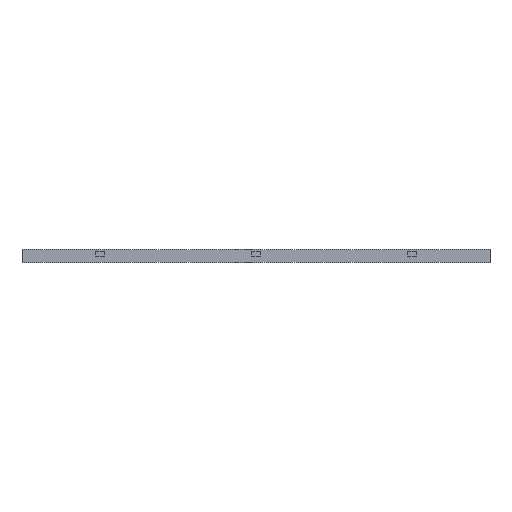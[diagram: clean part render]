
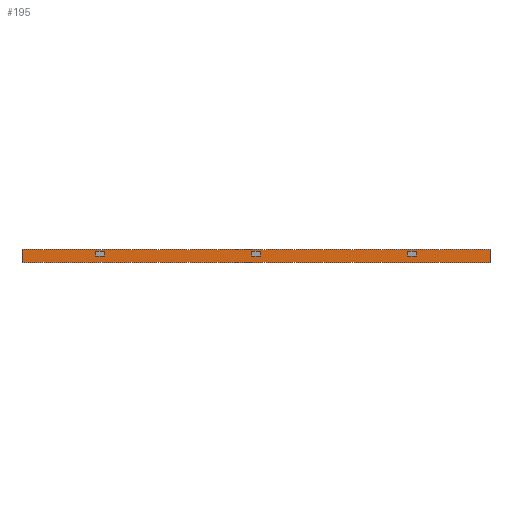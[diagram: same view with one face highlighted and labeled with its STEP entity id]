
A CAD part, left-side view. The second image highlights one B-rep face of the part: STEP entity #195.
In plain terms, the highlighted planar face has unit normal (-1, 0, 0).
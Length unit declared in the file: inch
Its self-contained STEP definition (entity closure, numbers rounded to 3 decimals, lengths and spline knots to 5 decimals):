
#17=FACE_BOUND('',#643,.T.);
#18=FACE_BOUND('',#644,.T.);
#19=FACE_BOUND('',#645,.T.);
#195=ADVANCED_FACE('',(#417,#17,#18,#19),#3789,.T.);
#417=FACE_OUTER_BOUND('',#642,.T.);
#642=EDGE_LOOP('',(#1272,#1273,#1274,#1275));
#643=EDGE_LOOP('',(#1276,#1277,#1278,#1279));
#644=EDGE_LOOP('',(#1280,#1281,#1282,#1283));
#645=EDGE_LOOP('',(#1284,#1285,#1286,#1287));
#1272=ORIENTED_EDGE('',*,*,#2368,.T.);
#1273=ORIENTED_EDGE('',*,*,#2369,.T.);
#1274=ORIENTED_EDGE('',*,*,#2370,.T.);
#1275=ORIENTED_EDGE('',*,*,#2371,.T.);
#1276=ORIENTED_EDGE('',*,*,#2162,.F.);
#1277=ORIENTED_EDGE('',*,*,#2192,.F.);
#1278=ORIENTED_EDGE('',*,*,#2129,.F.);
#1279=ORIENTED_EDGE('',*,*,#2092,.F.);
#1280=ORIENTED_EDGE('',*,*,#2318,.F.);
#1281=ORIENTED_EDGE('',*,*,#2348,.F.);
#1282=ORIENTED_EDGE('',*,*,#2285,.F.);
#1283=ORIENTED_EDGE('',*,*,#2248,.F.);
#1284=ORIENTED_EDGE('',*,*,#2375,.T.);
#1285=ORIENTED_EDGE('',*,*,#2372,.T.);
#1286=ORIENTED_EDGE('',*,*,#2373,.T.);
#1287=ORIENTED_EDGE('',*,*,#2374,.T.);
#2092=EDGE_CURVE('',#3316,#3317,#2704,.T.);
#2129=EDGE_CURVE('',#3317,#3342,#2741,.T.);
#2162=EDGE_CURVE('',#3364,#3316,#2774,.T.);
#2192=EDGE_CURVE('',#3342,#3364,#2804,.T.);
#2248=EDGE_CURVE('',#3420,#3421,#2860,.T.);
#2285=EDGE_CURVE('',#3421,#3446,#2897,.T.);
#2318=EDGE_CURVE('',#3468,#3420,#2930,.T.);
#2348=EDGE_CURVE('',#3446,#3468,#2960,.T.);
#2368=EDGE_CURVE('',#3488,#3489,#2980,.T.);
#2369=EDGE_CURVE('',#3489,#3490,#2981,.T.);
#2370=EDGE_CURVE('',#3490,#3491,#2982,.T.);
#2371=EDGE_CURVE('',#3491,#3488,#2983,.T.);
#2372=EDGE_CURVE('',#3492,#3493,#2984,.T.);
#2373=EDGE_CURVE('',#3493,#3494,#2985,.T.);
#2374=EDGE_CURVE('',#3494,#3495,#2986,.T.);
#2375=EDGE_CURVE('',#3495,#3492,#2987,.T.);
#2704=B_SPLINE_CURVE_WITH_KNOTS('',1,(#5161,#5162),.UNSPECIFIED.,.F.,.F.,
(2,2),(0.,1.25),.UNSPECIFIED.);
#2741=B_SPLINE_CURVE_WITH_KNOTS('',1,(#5235,#5236),.UNSPECIFIED.,.F.,.F.,
(2,2),(0.,0.75),.UNSPECIFIED.);
#2774=B_SPLINE_CURVE_WITH_KNOTS('',1,(#5301,#5302),.UNSPECIFIED.,.F.,.F.,
(2,2),(0.,0.75),.UNSPECIFIED.);
#2804=B_SPLINE_CURVE_WITH_KNOTS('',1,(#5361,#5362),.UNSPECIFIED.,.F.,.F.,
(2,2),(0.,1.25),.UNSPECIFIED.);
#2860=B_SPLINE_CURVE_WITH_KNOTS('',1,(#5473,#5474),.UNSPECIFIED.,.F.,.F.,
(2,2),(0.,1.25),.UNSPECIFIED.);
#2897=B_SPLINE_CURVE_WITH_KNOTS('',1,(#5547,#5548),.UNSPECIFIED.,.F.,.F.,
(2,2),(0.,0.75),.UNSPECIFIED.);
#2930=B_SPLINE_CURVE_WITH_KNOTS('',1,(#5613,#5614),.UNSPECIFIED.,.F.,.F.,
(2,2),(0.,0.75),.UNSPECIFIED.);
#2960=B_SPLINE_CURVE_WITH_KNOTS('',1,(#5673,#5674),.UNSPECIFIED.,.F.,.F.,
(2,2),(0.,1.25),.UNSPECIFIED.);
#2980=B_SPLINE_CURVE_WITH_KNOTS('',1,(#5713,#5714),.UNSPECIFIED.,.F.,.F.,
(2,2),(0.,72.),.UNSPECIFIED.);
#2981=B_SPLINE_CURVE_WITH_KNOTS('',1,(#5715,#5716),.UNSPECIFIED.,.F.,.F.,
(2,2),(0.,2.),.UNSPECIFIED.);
#2982=B_SPLINE_CURVE_WITH_KNOTS('',1,(#5717,#5718),.UNSPECIFIED.,.F.,.F.,
(2,2),(0.,72.),.UNSPECIFIED.);
#2983=B_SPLINE_CURVE_WITH_KNOTS('',1,(#5719,#5720),.UNSPECIFIED.,.F.,.F.,
(2,2),(0.,2.),.UNSPECIFIED.);
#2984=B_SPLINE_CURVE_WITH_KNOTS('',1,(#5721,#5722),.UNSPECIFIED.,.F.,.F.,
(2,2),(0.,1.25),.UNSPECIFIED.);
#2985=B_SPLINE_CURVE_WITH_KNOTS('',1,(#5723,#5724),.UNSPECIFIED.,.F.,.F.,
(2,2),(0.,0.75),.UNSPECIFIED.);
#2986=B_SPLINE_CURVE_WITH_KNOTS('',1,(#5725,#5726),.UNSPECIFIED.,.F.,.F.,
(2,2),(0.,1.25),.UNSPECIFIED.);
#2987=B_SPLINE_CURVE_WITH_KNOTS('',1,(#5727,#5728),.UNSPECIFIED.,.F.,.F.,
(2,2),(0.,0.75),.UNSPECIFIED.);
#3316=VERTEX_POINT('',#4709);
#3317=VERTEX_POINT('',#4710);
#3342=VERTEX_POINT('',#4735);
#3364=VERTEX_POINT('',#4757);
#3420=VERTEX_POINT('',#4813);
#3421=VERTEX_POINT('',#4814);
#3446=VERTEX_POINT('',#4839);
#3468=VERTEX_POINT('',#4861);
#3488=VERTEX_POINT('',#4881);
#3489=VERTEX_POINT('',#4882);
#3490=VERTEX_POINT('',#4883);
#3491=VERTEX_POINT('',#4884);
#3492=VERTEX_POINT('',#4885);
#3493=VERTEX_POINT('',#4886);
#3494=VERTEX_POINT('',#4887);
#3495=VERTEX_POINT('',#4888);
#3789=PLANE('',#4102);
#4102=AXIS2_PLACEMENT_3D('',#4552,#4327,$);
#4327=DIRECTION('',(-1.,0.,0.));
#4552=CARTESIAN_POINT('',(-21.25,43.20472,1.20472));
#4709=CARTESIAN_POINT('',(-21.25,23.375,0.75));
#4710=CARTESIAN_POINT('',(-21.25,24.625,0.75));
#4735=CARTESIAN_POINT('',(-21.25,24.625,0.));
#4757=CARTESIAN_POINT('',(-21.25,23.375,0.));
#4813=CARTESIAN_POINT('',(-21.25,-0.625,0.75));
#4814=CARTESIAN_POINT('',(-21.25,0.625,0.75));
#4839=CARTESIAN_POINT('',(-21.25,0.625,0.));
#4861=CARTESIAN_POINT('',(-21.25,-0.625,0.));
#4881=CARTESIAN_POINT('',(-21.25,36.,-1.));
#4882=CARTESIAN_POINT('',(-21.25,-36.,-1.));
#4883=CARTESIAN_POINT('',(-21.25,-36.,1.));
#4884=CARTESIAN_POINT('',(-21.25,36.,1.));
#4885=CARTESIAN_POINT('',(-21.25,-23.375,0.75));
#4886=CARTESIAN_POINT('',(-21.25,-24.625,0.75));
#4887=CARTESIAN_POINT('',(-21.25,-24.625,0.));
#4888=CARTESIAN_POINT('',(-21.25,-23.375,0.));
#5161=CARTESIAN_POINT('',(-21.25,23.375,0.75));
#5162=CARTESIAN_POINT('',(-21.25,24.625,0.75));
#5235=CARTESIAN_POINT('',(-21.25,24.625,0.75));
#5236=CARTESIAN_POINT('',(-21.25,24.625,0.));
#5301=CARTESIAN_POINT('',(-21.25,23.375,0.));
#5302=CARTESIAN_POINT('',(-21.25,23.375,0.75));
#5361=CARTESIAN_POINT('',(-21.25,24.625,0.));
#5362=CARTESIAN_POINT('',(-21.25,23.375,0.));
#5473=CARTESIAN_POINT('',(-21.25,-0.625,0.75));
#5474=CARTESIAN_POINT('',(-21.25,0.625,0.75));
#5547=CARTESIAN_POINT('',(-21.25,0.625,0.75));
#5548=CARTESIAN_POINT('',(-21.25,0.625,0.));
#5613=CARTESIAN_POINT('',(-21.25,-0.625,0.));
#5614=CARTESIAN_POINT('',(-21.25,-0.625,0.75));
#5673=CARTESIAN_POINT('',(-21.25,0.625,0.));
#5674=CARTESIAN_POINT('',(-21.25,-0.625,0.));
#5713=CARTESIAN_POINT('',(-21.25,36.,-1.));
#5714=CARTESIAN_POINT('',(-21.25,-36.,-1.));
#5715=CARTESIAN_POINT('',(-21.25,-36.,-1.));
#5716=CARTESIAN_POINT('',(-21.25,-36.,1.));
#5717=CARTESIAN_POINT('',(-21.25,-36.,1.));
#5718=CARTESIAN_POINT('',(-21.25,36.,1.));
#5719=CARTESIAN_POINT('',(-21.25,36.,1.));
#5720=CARTESIAN_POINT('',(-21.25,36.,-1.));
#5721=CARTESIAN_POINT('',(-21.25,-23.375,0.75));
#5722=CARTESIAN_POINT('',(-21.25,-24.625,0.75));
#5723=CARTESIAN_POINT('',(-21.25,-24.625,0.75));
#5724=CARTESIAN_POINT('',(-21.25,-24.625,0.));
#5725=CARTESIAN_POINT('',(-21.25,-24.625,0.));
#5726=CARTESIAN_POINT('',(-21.25,-23.375,0.));
#5727=CARTESIAN_POINT('',(-21.25,-23.375,0.));
#5728=CARTESIAN_POINT('',(-21.25,-23.375,0.75));
